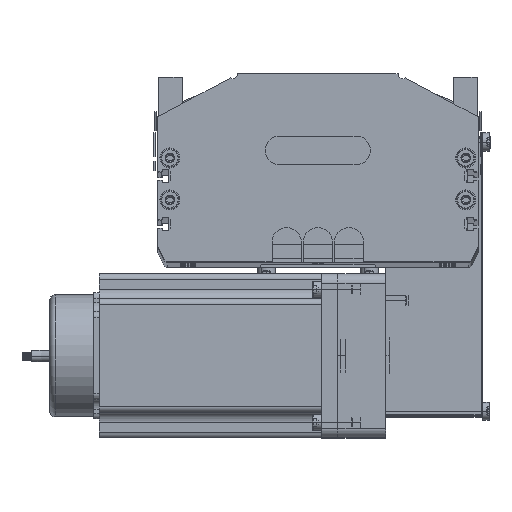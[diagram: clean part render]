
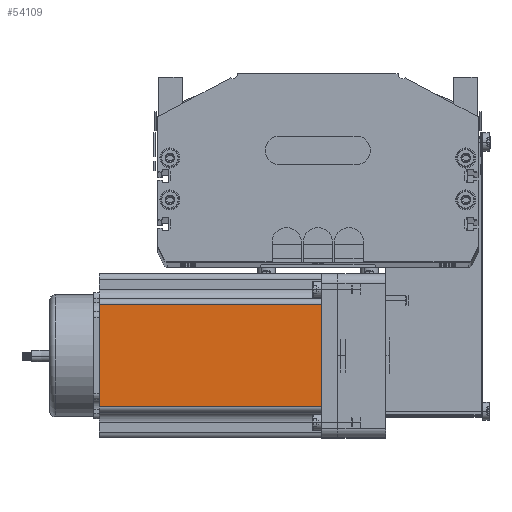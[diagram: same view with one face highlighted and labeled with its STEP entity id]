
A CAD part, top view. The second image highlights one B-rep face of the part: STEP entity #54109.
In plain terms, the highlighted planar face has unit normal (0, 0, 1) as drawn and (0, -1, 0) by its records, which use the part's own axes.
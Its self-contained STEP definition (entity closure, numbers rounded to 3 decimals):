
#8410 = DIRECTION ( 'NONE',  ( 0., 0., 1. ) ) ;
#8411 = VECTOR ( 'NONE', #8410, 1000. ) ;
#8412 = CARTESIAN_POINT ( 'NONE',  ( 69.74, 0., 116.5 ) ) ;
#8413 = DIRECTION ( 'NONE',  ( 1., 0., 0. ) ) ;
#8414 = VECTOR ( 'NONE', #8413, 1000. ) ;
#8415 = CARTESIAN_POINT ( 'NONE',  ( 0., 0., 0. ) ) ;
#8416 = LINE ( 'NONE', #8415, #8414 ) ;
#8432 = LINE ( 'NONE', #8412, #8411 ) ;
#53163 = EDGE_CURVE ( 'NONE', #53717, #53836, #8416, .T. ) ;
#53166 = EDGE_CURVE ( 'NONE', #53836, #53715, #8432, .T. ) ;
#53706 = EDGE_LOOP ( 'NONE', ( #53909, #53713, #54024, #53891 ) ) ;
#53713 = ORIENTED_EDGE ( 'NONE', *, *, #53166, .T. ) ;
#53715 = VERTEX_POINT ( 'NONE', #75084 ) ;
#53717 = VERTEX_POINT ( 'NONE', #75087 ) ;
#53718 = EDGE_CURVE ( 'NONE', #53896, #53715, #74991, .T. ) ;
#53766 = EDGE_CURVE ( 'NONE', #53896, #53717, #75367, .T. ) ;
#53836 = VERTEX_POINT ( 'NONE', #59380 ) ;
#53891 = ORIENTED_EDGE ( 'NONE', *, *, #53766, .T. ) ;
#53896 = VERTEX_POINT ( 'NONE', #59435 ) ;
#53909 = ORIENTED_EDGE ( 'NONE', *, *, #53163, .T. ) ;
#54024 = ORIENTED_EDGE ( 'NONE', *, *, #53718, .F. ) ;
#54109 = ADVANCED_FACE ( 'NONE', ( #60316 ), #60341, .F. ) ;
#59380 = CARTESIAN_POINT ( 'NONE',  ( 69.74, 0., 0. ) ) ;
#59435 = CARTESIAN_POINT ( 'NONE',  ( 16.16, 0., 116.5 ) ) ;
#60301 = CARTESIAN_POINT ( 'NONE',  ( 0., 0., 116.5 ) ) ;
#60316 = FACE_OUTER_BOUND ( 'NONE', #53706, .T. ) ;
#60341 = PLANE ( 'NONE',  #60373 ) ;
#60366 = DIRECTION ( 'NONE',  ( 0., 0., 1. ) ) ;
#60367 = DIRECTION ( 'NONE',  ( 0., 1., 0. ) ) ;
#60373 = AXIS2_PLACEMENT_3D ( 'NONE', #60301, #60367, #60366 ) ;
#74989 = CARTESIAN_POINT ( 'NONE',  ( 0., 0., 116.5 ) ) ;
#74991 = LINE ( 'NONE', #74989, #75259 ) ;
#75084 = CARTESIAN_POINT ( 'NONE',  ( 69.74, 0., 116.5 ) ) ;
#75087 = CARTESIAN_POINT ( 'NONE',  ( 16.16, 0., 0. ) ) ;
#75257 = DIRECTION ( 'NONE',  ( 1., 0., 0. ) ) ;
#75259 = VECTOR ( 'NONE', #75257, 1000. ) ;
#75361 = DIRECTION ( 'NONE',  ( 0., 0., -1. ) ) ;
#75363 = VECTOR ( 'NONE', #75361, 1000. ) ;
#75364 = CARTESIAN_POINT ( 'NONE',  ( 16.16, 0., 116.5 ) ) ;
#75367 = LINE ( 'NONE', #75364, #75363 ) ;
